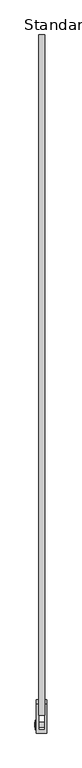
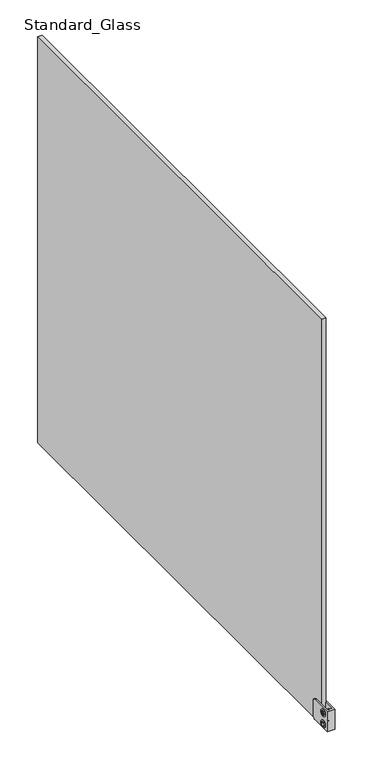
"""IFC4 building model written with IfcOpenShell, lengths in millimetres: railing geometry, Baluster-Excess-Fill-Straight-Panel-VIVA : Standard_Glass."""

from ifc_helpers import new_model, si_unit, point, frame, origin, place, context, project, spatial, polyline, circle_curve, ellipse_curve, trimmed, outline, extrude, source, transform, mapped, element, save
from ifc_brep_helpers import plane_surface, cylinder_surface, revolved_surface, advanced_brep


def standard_glass_f35e9e72(model_context):
    return source(origin(), model_context, "Body", "SolidModel", [
        advanced_brep(
        [(36.7665, -1053.4645616, 138.7358896), (24.0665, -1053.4645616, 138.7358896), (24.0665, -1046.3736698, 138.7358896), (36.7665, -1046.3736698, 138.7358896), (24.0665, -1057.3269048, 138.7358896), (24.0665, -1042.5113266, 138.7358896), (23.199388, -1051.5751911, 138.7358896), (36.7665, -1051.5751911, 138.7358896), (36.7665, -1048.2630403, 138.7358896), (23.199388, -1048.2630403, 138.7358896), (23.2316551, -1057.3269048, 138.7358896), (21.9503831, -1056.0456328, 138.7358896), (21.9503831, -1043.7925987, 138.7358896), (23.2316551, -1042.5113266, 138.7358896), (21.9503831, -1054.2177113, 138.7358896), (21.9503831, -1045.6205202, 138.7358896), (23.199388, -1054.2177113, 138.7358896), (23.199388, -1045.6205202, 138.7358896)],
        [
            (0, 1),
            (1, 2, circle_curve(frame((24.0665, -1049.9191157, 138.7358896), z_axis=(1.0, 0.0, 0.0), x_axis=(0.0, 1.0, 0.0)), 3.5454459)),
            (2, 3),
            (3, 0, circle_curve(frame((36.7665, -1049.9191157, 138.7358896), z_axis=(-1.0, 0.0, 0.0), x_axis=(0.0, 1.0, 0.0)), 3.5454459)),
            (2, 1, circle_curve(frame((24.0665, -1049.9191157, 138.7358896), z_axis=(1.0, 0.0, 0.0), x_axis=(0.0, 1.0, 0.0)), 3.5454459)),
            (0, 3, circle_curve(frame((36.7665, -1049.9191157, 138.7358896), z_axis=(-1.0, 0.0, 0.0), x_axis=(0.0, 1.0, 0.0)), 3.5454459)),
            (1, 4),
            (4, 5, circle_curve(frame((24.0665, -1049.9191157, 138.7358896), z_axis=(1.0, 0.0, 0.0), x_axis=(0.0, 1.0, 0.0)), 7.4077891)),
            (5, 2),
            (5, 4, circle_curve(frame((24.0665, -1049.9191157, 138.7358896), z_axis=(1.0, 0.0, 0.0), x_axis=(0.0, 1.0, 0.0)), 7.4077891)),
            (6, 7),
            (7, 8, circle_curve(frame((36.7665, -1049.9191157, 138.7358896), z_axis=(1.0, 0.0, 0.0), x_axis=(0.0, 1.0, 0.0)), 1.6560754)),
            (8, 9),
            (9, 6, circle_curve(frame((23.199388, -1049.9191157, 138.7358896), z_axis=(-1.0, 0.0, 0.0), x_axis=(0.0, 1.0, 0.0)), 1.6560754)),
            (8, 7, circle_curve(frame((36.7665, -1049.9191157, 138.7358896), z_axis=(1.0, 0.0, 0.0), x_axis=(0.0, 1.0, 0.0)), 1.6560754)),
            (6, 9, circle_curve(frame((23.199388, -1049.9191157, 138.7358896), z_axis=(-1.0, 0.0, 0.0), x_axis=(0.0, 1.0, 0.0)), 1.6560754)),
            (10, 11, circle_curve(frame((23.2316551, -1056.0456328, 138.7358896), z_axis=(0.0, 0.0, -1.0), x_axis=(0.0, -1.0, 0.0)), 1.281272)),
            (11, 12, circle_curve(frame((21.9503831, -1049.9191157, 138.7358896), z_axis=(1.0, 0.0, 0.0), x_axis=(0.0, 1.0, 0.0)), 6.1265171)),
            (12, 13, circle_curve(frame((23.2316551, -1043.7925987, 138.7358896), z_axis=(0.0, 0.0, -1.0), x_axis=(0.0, 1.0, 0.0)), 1.281272)),
            (13, 10, circle_curve(frame((23.2316551, -1049.9191157, 138.7358896), z_axis=(-1.0, 0.0, 0.0), x_axis=(0.0, 1.0, 0.0)), 7.4077891)),
            (12, 11, circle_curve(frame((21.9503831, -1049.9191157, 138.7358896), z_axis=(1.0, 0.0, 0.0), x_axis=(0.0, 1.0, 0.0)), 6.1265171)),
            (10, 13, circle_curve(frame((23.2316551, -1049.9191157, 138.7358896), z_axis=(-1.0, 0.0, 0.0), x_axis=(0.0, 1.0, 0.0)), 7.4077891)),
            (11, 14),
            (14, 15, circle_curve(frame((21.9503831, -1049.9191157, 138.7358896), z_axis=(1.0, 0.0, 0.0), x_axis=(0.0, 1.0, 0.0)), 4.2985955)),
            (15, 12),
            (15, 14, circle_curve(frame((21.9503831, -1049.9191157, 138.7358896), z_axis=(1.0, 0.0, 0.0), x_axis=(0.0, 1.0, 0.0)), 4.2985955)),
            (4, 10),
            (13, 5),
            (7, 0),
            (3, 8),
            (14, 16),
            (16, 17, circle_curve(frame((23.199388, -1049.9191157, 138.7358896), z_axis=(1.0, 0.0, 0.0), x_axis=(0.0, 1.0, 0.0)), 4.2985955)),
            (17, 15),
            (17, 16, circle_curve(frame((23.199388, -1049.9191157, 138.7358896), z_axis=(1.0, 0.0, 0.0), x_axis=(0.0, 1.0, 0.0)), 4.2985955)),
            (16, 6),
            (9, 17),
        ],
        [
            cylinder_surface(frame((27.5632331, -1049.9191157, 138.7358896), z_axis=(1.0, 0.0, 0.0), x_axis=(0.0, 1.0, 0.0)), 3.5454459),
            plane_surface(frame((24.0665, -1049.9191157, 138.7358896), z_axis=(1.0, 0.0, 0.0), x_axis=(0.0, 1.0, 0.0))),
            revolved_surface(polyline([(36.7665, -1048.2630403, 138.7358896), (23.199388, -1048.2630403, 138.7358896)]), (27.5632331, -1049.9191157, 138.7358896), (1.0, 0.0, 0.0)),
            revolved_surface(trimmed(ellipse_curve(frame((23.2316551, -1043.7925987, 138.7358896), z_axis=(0.0, 0.0, -1.0), x_axis=(0.0, 1.0, 0.0)), 1.281272, 1.281272), [point((21.9503831, -1043.7925987, 138.7358896))], [point((23.2316551, -1042.5113266, 138.7358896))], True, "CARTESIAN"), (27.5632331, -1049.9191157, 138.7358896), (1.0, 0.0, 0.0)),
            plane_surface(frame((21.9503831, -1049.9191157, 138.7358896), z_axis=(-1.0, 0.0, 0.0), x_axis=(0.0, 1.0, 0.0))),
            cylinder_surface(frame((27.5632331, -1049.9191157, 138.7358896), z_axis=(1.0, 0.0, 0.0), x_axis=(0.0, 1.0, 0.0)), 7.4077891),
            plane_surface(frame((36.7665, -1049.9191157, 138.7358896), z_axis=(1.0, 0.0, 0.0), x_axis=(0.0, 1.0, 0.0))),
            revolved_surface(polyline([(23.199388, -1045.6205202, 138.7358896), (21.9503831, -1045.6205202, 138.7358896)]), (27.5632331, -1049.9191157, 138.7358896), (1.0, 0.0, 0.0)),
            plane_surface(frame((23.199388, -1049.9191157, 138.7358896), z_axis=(-1.0, 0.0, 0.0), x_axis=(0.0, 1.0, 0.0))),
        ],
        [
            (0, [[1, 2, 3, 4]]),
            (0, [[-3, 5, -1, 6]]),
            (1, [[7, 8, 9, -2]]),
            (1, [[-9, 10, -7, -5]]),
            (2, [[11, 12, 13, 14]]),
            (2, [[-13, 15, -11, 16]]),
            (3, [[17, 18, 19, 20]]),
            (3, [[-19, 21, -17, 22]]),
            (4, [[23, 24, 25, -18]]),
            (4, [[-25, 26, -23, -21]]),
            (5, [[27, -20, 28, -8]]),
            (5, [[-28, -22, -27, -10]]),
            (6, [[29, -4, 30, -12]]),
            (6, [[-30, -6, -29, -15]]),
            (7, [[31, 32, 33, -24]]),
            (7, [[-33, 34, -31, -26]]),
            (8, [[35, -14, 36, -32]]),
            (8, [[-36, -16, -35, -34]]),
        ],
    ),
        advanced_brep(
        [(36.7665, -1053.4645616, 114.1296396), (24.0665, -1053.4645616, 114.1296396), (24.0665, -1046.3736698, 114.1296396), (36.7665, -1046.3736698, 114.1296396), (24.0665, -1057.3269048, 114.1296396), (24.0665, -1042.5113266, 114.1296396), (23.199388, -1051.5751911, 114.1296396), (36.7665, -1051.5751911, 114.1296396), (36.7665, -1048.2630403, 114.1296396), (23.199388, -1048.2630403, 114.1296396), (23.2316551, -1057.3269048, 114.1296396), (21.9503831, -1056.0456328, 114.1296396), (21.9503831, -1043.7925987, 114.1296396), (23.2316551, -1042.5113266, 114.1296396), (21.9503831, -1054.2177113, 114.1296396), (21.9503831, -1045.6205202, 114.1296396), (23.199388, -1054.2177113, 114.1296396), (23.199388, -1045.6205202, 114.1296396)],
        [
            (0, 1),
            (1, 2, circle_curve(frame((24.0665, -1049.9191157, 114.1296396), z_axis=(1.0, 0.0, 0.0), x_axis=(0.0, 1.0, 0.0)), 3.5454459)),
            (2, 3),
            (3, 0, circle_curve(frame((36.7665, -1049.9191157, 114.1296396), z_axis=(-1.0, 0.0, 0.0), x_axis=(0.0, 1.0, 0.0)), 3.5454459)),
            (2, 1, circle_curve(frame((24.0665, -1049.9191157, 114.1296396), z_axis=(1.0, 0.0, 0.0), x_axis=(0.0, 1.0, 0.0)), 3.5454459)),
            (0, 3, circle_curve(frame((36.7665, -1049.9191157, 114.1296396), z_axis=(-1.0, 0.0, 0.0), x_axis=(0.0, 1.0, 0.0)), 3.5454459)),
            (1, 4),
            (4, 5, circle_curve(frame((24.0665, -1049.9191157, 114.1296396), z_axis=(1.0, 0.0, 0.0), x_axis=(0.0, 1.0, 0.0)), 7.4077891)),
            (5, 2),
            (5, 4, circle_curve(frame((24.0665, -1049.9191157, 114.1296396), z_axis=(1.0, 0.0, 0.0), x_axis=(0.0, 1.0, 0.0)), 7.4077891)),
            (6, 7),
            (7, 8, circle_curve(frame((36.7665, -1049.9191157, 114.1296396), z_axis=(1.0, 0.0, 0.0), x_axis=(0.0, 1.0, 0.0)), 1.6560754)),
            (8, 9),
            (9, 6, circle_curve(frame((23.199388, -1049.9191157, 114.1296396), z_axis=(-1.0, 0.0, 0.0), x_axis=(0.0, 1.0, 0.0)), 1.6560754)),
            (8, 7, circle_curve(frame((36.7665, -1049.9191157, 114.1296396), z_axis=(1.0, 0.0, 0.0), x_axis=(0.0, 1.0, 0.0)), 1.6560754)),
            (6, 9, circle_curve(frame((23.199388, -1049.9191157, 114.1296396), z_axis=(-1.0, 0.0, 0.0), x_axis=(0.0, 1.0, 0.0)), 1.6560754)),
            (10, 11, circle_curve(frame((23.2316551, -1056.0456328, 114.1296396), z_axis=(0.0, 0.0, -1.0), x_axis=(0.0, -1.0, 0.0)), 1.281272)),
            (11, 12, circle_curve(frame((21.9503831, -1049.9191157, 114.1296396), z_axis=(1.0, 0.0, 0.0), x_axis=(0.0, 1.0, 0.0)), 6.1265171)),
            (12, 13, circle_curve(frame((23.2316551, -1043.7925987, 114.1296396), z_axis=(0.0, 0.0, -1.0), x_axis=(0.0, 1.0, 0.0)), 1.281272)),
            (13, 10, circle_curve(frame((23.2316551, -1049.9191157, 114.1296396), z_axis=(-1.0, 0.0, 0.0), x_axis=(0.0, 1.0, 0.0)), 7.4077891)),
            (12, 11, circle_curve(frame((21.9503831, -1049.9191157, 114.1296396), z_axis=(1.0, 0.0, 0.0), x_axis=(0.0, 1.0, 0.0)), 6.1265171)),
            (10, 13, circle_curve(frame((23.2316551, -1049.9191157, 114.1296396), z_axis=(-1.0, 0.0, 0.0), x_axis=(0.0, 1.0, 0.0)), 7.4077891)),
            (11, 14),
            (14, 15, circle_curve(frame((21.9503831, -1049.9191157, 114.1296396), z_axis=(1.0, 0.0, 0.0), x_axis=(0.0, 1.0, 0.0)), 4.2985955)),
            (15, 12),
            (15, 14, circle_curve(frame((21.9503831, -1049.9191157, 114.1296396), z_axis=(1.0, 0.0, 0.0), x_axis=(0.0, 1.0, 0.0)), 4.2985955)),
            (7, 0),
            (3, 8),
            (4, 10),
            (13, 5),
            (14, 16),
            (16, 17, circle_curve(frame((23.199388, -1049.9191157, 114.1296396), z_axis=(1.0, 0.0, 0.0), x_axis=(0.0, 1.0, 0.0)), 4.2985955)),
            (17, 15),
            (17, 16, circle_curve(frame((23.199388, -1049.9191157, 114.1296396), z_axis=(1.0, 0.0, 0.0), x_axis=(0.0, 1.0, 0.0)), 4.2985955)),
            (16, 6),
            (9, 17),
        ],
        [
            cylinder_surface(frame((27.5632331, -1049.9191157, 114.1296396), z_axis=(1.0, 0.0, 0.0), x_axis=(0.0, 1.0, 0.0)), 3.5454459),
            plane_surface(frame((24.0665, -1049.9191157, 114.1296396), z_axis=(1.0, 0.0, 0.0), x_axis=(0.0, 1.0, 0.0))),
            revolved_surface(polyline([(36.7665, -1048.2630403, 114.1296396), (23.199388, -1048.2630403, 114.1296396)]), (27.5632331, -1049.9191157, 114.1296396), (1.0, 0.0, 0.0)),
            revolved_surface(trimmed(ellipse_curve(frame((23.2316551, -1043.7925987, 114.1296396), z_axis=(0.0, 0.0, -1.0), x_axis=(0.0, 1.0, 0.0)), 1.281272, 1.281272), [point((21.9503831, -1043.7925987, 114.1296396))], [point((23.2316551, -1042.5113266, 114.1296396))], True, "CARTESIAN"), (27.5632331, -1049.9191157, 114.1296396), (1.0, 0.0, 0.0)),
            plane_surface(frame((21.9503831, -1049.9191157, 114.1296396), z_axis=(-1.0, 0.0, 0.0), x_axis=(0.0, 1.0, 0.0))),
            plane_surface(frame((36.7665, -1049.9191157, 114.1296396), z_axis=(1.0, 0.0, 0.0), x_axis=(0.0, 1.0, 0.0))),
            cylinder_surface(frame((27.5632331, -1049.9191157, 114.1296396), z_axis=(1.0, 0.0, 0.0), x_axis=(0.0, 1.0, 0.0)), 7.4077891),
            revolved_surface(polyline([(23.199388, -1045.6205202, 114.1296396), (21.9503831, -1045.6205202, 114.1296396)]), (27.5632331, -1049.9191157, 114.1296396), (1.0, 0.0, 0.0)),
            plane_surface(frame((23.199388, -1049.9191157, 114.1296396), z_axis=(-1.0, 0.0, 0.0), x_axis=(0.0, 1.0, 0.0))),
        ],
        [
            (0, [[1, 2, 3, 4]]),
            (0, [[-3, 5, -1, 6]]),
            (1, [[7, 8, 9, -2]]),
            (1, [[-9, 10, -7, -5]]),
            (2, [[11, 12, 13, 14]]),
            (2, [[-13, 15, -11, 16]]),
            (3, [[17, 18, 19, 20]]),
            (3, [[-19, 21, -17, 22]]),
            (4, [[23, 24, 25, -18]]),
            (4, [[-25, 26, -23, -21]]),
            (5, [[27, -4, 28, -12]]),
            (5, [[-28, -6, -27, -15]]),
            (6, [[29, -20, 30, -8]]),
            (6, [[-30, -22, -29, -10]]),
            (7, [[31, 32, 33, -24]]),
            (7, [[-33, 34, -31, -26]]),
            (8, [[35, -14, 36, -32]]),
            (8, [[-36, -16, -35, -34]]),
        ],
    ),
        extrude(outline(polyline([(-1054.013044, 114.1296396), (-1051.9660799, 117.6750855), (-1047.8721516, 117.6750855), (-1045.8251874, 114.1296396), (-1047.8721516, 110.5841937), (-1051.9660799, 110.5841937), (-1054.013044, 114.1296396)])), frame((21.7024185, 0.0, 0.0), z_axis=(1.0, 0.0, 0.0), x_axis=(0.0, 1.0, 0.0)), (0.0, 0.0, 1.0), 1.4969696),
        advanced_brep(
        [(24.0665, -1062.5524605, 148.6577646), (24.0665, -1018.1024605, 148.6577646), (24.0665, -1011.7524605, 142.3077646), (24.0665, -1011.7524605, 110.5577646), (24.0665, -1018.1024605, 104.2077646), (24.0665, -1062.5524605, 104.2077646), (39.9415, -1062.5524605, 148.6577646), (39.9415, -1062.5524605, 104.2077646), (39.9415, -1018.1024605, 104.2077646), (39.9415, -1011.7524605, 110.5577646), (39.9415, -1011.7524605, 142.3077646), (39.9415, -1018.1024605, 148.6577646), (27.2415, -1018.1024605, 104.2077646), (27.2415, -1057.8343801, 104.2077646), (36.7665, -1057.8343801, 104.2077646), (36.7665, -1018.1024605, 104.2077646), (27.2415, -1057.8343801, 148.6577646), (36.7665, -1057.8343801, 148.6577646), (27.2415, -1011.7524605, 110.5577646), (27.2415, -1011.7524605, 142.3077646), (27.2415, -1018.1024605, 148.6577646), (36.7665, -1018.1024605, 148.6577646), (36.7665, -1011.7524605, 142.3077646), (36.7665, -1011.7524605, 110.5577646)],
        [
            (0, 1),
            (1, 2, circle_curve(frame((24.0665, -1018.1024605, 142.3077646), z_axis=(-1.0, 0.0, 0.0), x_axis=(0.0, 1.0, 0.0)), 6.35)),
            (2, 3),
            (3, 4, circle_curve(frame((24.0665, -1018.1024605, 110.5577646), z_axis=(-1.0, 0.0, 0.0), x_axis=(0.0, 1.0, 0.0)), 6.35)),
            (4, 5),
            (5, 0),
            (6, 7),
            (7, 8),
            (8, 9, circle_curve(frame((39.9415, -1018.1024605, 110.5577646), z_axis=(1.0, 0.0, 0.0), x_axis=(0.0, 1.0, 0.0)), 6.35)),
            (9, 10),
            (10, 11, circle_curve(frame((39.9415, -1018.1024605, 142.3077646), z_axis=(1.0, 0.0, 0.0), x_axis=(0.0, 1.0, 0.0)), 6.35)),
            (11, 6),
            (5, 7),
            (6, 0),
            (4, 12),
            (12, 13),
            (13, 14),
            (14, 15),
            (15, 8),
            (13, 16),
            (16, 17),
            (17, 14),
            (12, 18, circle_curve(frame((27.2415, -1018.1024605, 110.5577646), z_axis=(1.0, 0.0, 0.0), x_axis=(0.0, 1.0, 0.0)), 6.35)),
            (18, 19),
            (19, 20, circle_curve(frame((27.2415, -1018.1024605, 142.3077646), z_axis=(1.0, 0.0, 0.0), x_axis=(0.0, 1.0, 0.0)), 6.35)),
            (20, 16),
            (17, 21),
            (21, 22, circle_curve(frame((36.7665, -1018.1024605, 142.3077646), z_axis=(-1.0, 0.0, 0.0), x_axis=(0.0, 1.0, 0.0)), 6.35)),
            (22, 23),
            (23, 15, circle_curve(frame((36.7665, -1018.1024605, 110.5577646), z_axis=(-1.0, 0.0, 0.0), x_axis=(0.0, 1.0, 0.0)), 6.35)),
            (23, 9),
            (3, 18),
            (22, 10),
            (2, 19),
            (21, 11),
            (1, 20),
        ],
        [
            plane_surface(frame((24.0665, -1062.5524605, 104.2077646), z_axis=(-1.0, 0.0, 0.0), x_axis=(0.0, 0.0, -1.0))),
            plane_surface(frame((39.9415, -1062.5524605, 104.2077646), z_axis=(1.0, 0.0, 0.0), x_axis=(0.0, 0.0, 1.0))),
            plane_surface(frame((24.0665, -1062.5524605, 148.6577646), z_axis=(0.0, -1.0, 0.0), x_axis=(1.0, 0.0, 0.0))),
            plane_surface(frame((24.0665, -1062.5524605, 104.2077646), z_axis=(0.0, 0.0, -1.0), x_axis=(1.0, 0.0, 0.0))),
            plane_surface(frame((36.7665, -1057.8343801, 161.3577646), z_axis=(0.0, 1.0, 0.0), x_axis=(0.0, 0.0, -1.0))),
            plane_surface(frame((27.2415, -1057.8343801, 161.3577646), z_axis=(1.0, 0.0, 0.0), x_axis=(0.0, 0.0, -1.0))),
            plane_surface(frame((36.7665, -999.0524605, 161.3577646), z_axis=(-1.0, 0.0, 0.0), x_axis=(0.0, 0.0, -1.0))),
            cylinder_surface(frame((39.9415, -1018.1024605, 110.5577646), z_axis=(-1.0, 0.0, 0.0), x_axis=(0.0, 1.0, 0.0)), 6.35),
            plane_surface(frame((24.0665, -1011.7524605, 110.5577646), z_axis=(0.0, 1.0, 0.0), x_axis=(1.0, 0.0, 0.0))),
            cylinder_surface(frame((39.9415, -1018.1024605, 142.3077646), z_axis=(-1.0, 0.0, 0.0), x_axis=(0.0, 1.0, 0.0)), 6.35),
            plane_surface(frame((24.0665, -1018.1024605, 148.6577646), z_axis=(0.0, 0.0, 1.0), x_axis=(1.0, 0.0, 0.0))),
        ],
        [
            (0, [[1, 2, 3, 4, 5, 6]]),
            (1, [[7, 8, 9, 10, 11, 12]]),
            (2, [[13, -7, 14, -6]]),
            (3, [[15, 16, 17, 18, 19, -8, -13, -5]]),
            (4, [[-17, 20, 21, 22]]),
            (5, [[-16, 23, 24, 25, 26, -20]]),
            (6, [[27, 28, 29, 30, -18, -22]]),
            (7, [[-19, -30, 31, -9]]),
            (7, [[32, -23, -15, -4]]),
            (8, [[-31, -29, 33, -10]]),
            (8, [[34, -24, -32, -3]]),
            (9, [[-33, -28, 35, -11]]),
            (9, [[36, -25, -34, -2]]),
            (10, [[-14, -12, -35, -27, -21, -26, -36, -1]]),
        ],
    ),
        extrude(outline(polyline([(36.7665, -1.0851207), (36.7665, -1035.6093801), (27.2415, -1035.6093801), (27.2415, -1.0851207), (36.7665, -1.0851207)])), frame((0.0, 0.0, 101.6), z_axis=(0.0, 0.0, 1.0), x_axis=(1.0, 0.0, 0.0)), (0.0, 0.0, 1.0), 901.7),
    ])


if __name__ == "__main__":
    model = new_model("IFC4")
    model_context = context("Model", 3, world=origin())
    ifc_project = project(units=[si_unit("LENGTHUNIT", "METRE", prefix="MILLI")], contexts=[model_context])
    site = spatial("IfcSite", under=ifc_project)
    building = spatial("IfcBuilding", under=site)
    placement = place(None, origin())
    standard_glass_shape = standard_glass_f35e9e72(model_context)
    element("IfcRailing", 1, ObjectType="Baluster-Excess-Fill-Straight-Panel-VIVA : Standard_Glass", at=placement, inside=building, context=model_context, shape_type="MappedRepresentation", body=[
        mapped(standard_glass_shape, transform((0.0, 0.0, 0.0), x_axis=(1.0, 0.0, 0.0), y_axis=(0.0, 1.0, 0.0), z_axis=(0.0, 0.0, 1.0))),
    ])
    save(model, "model.ifc")
